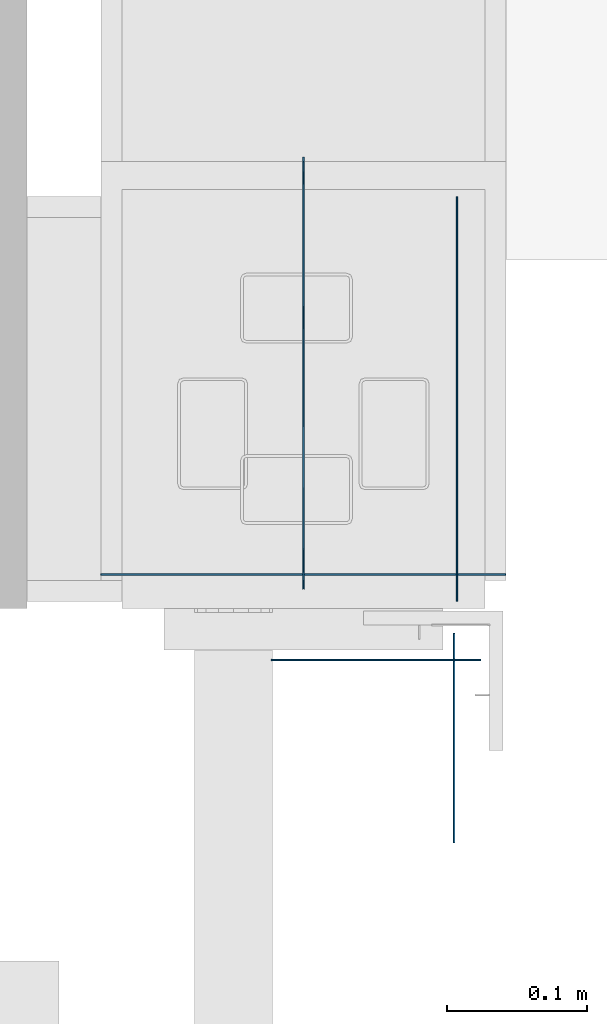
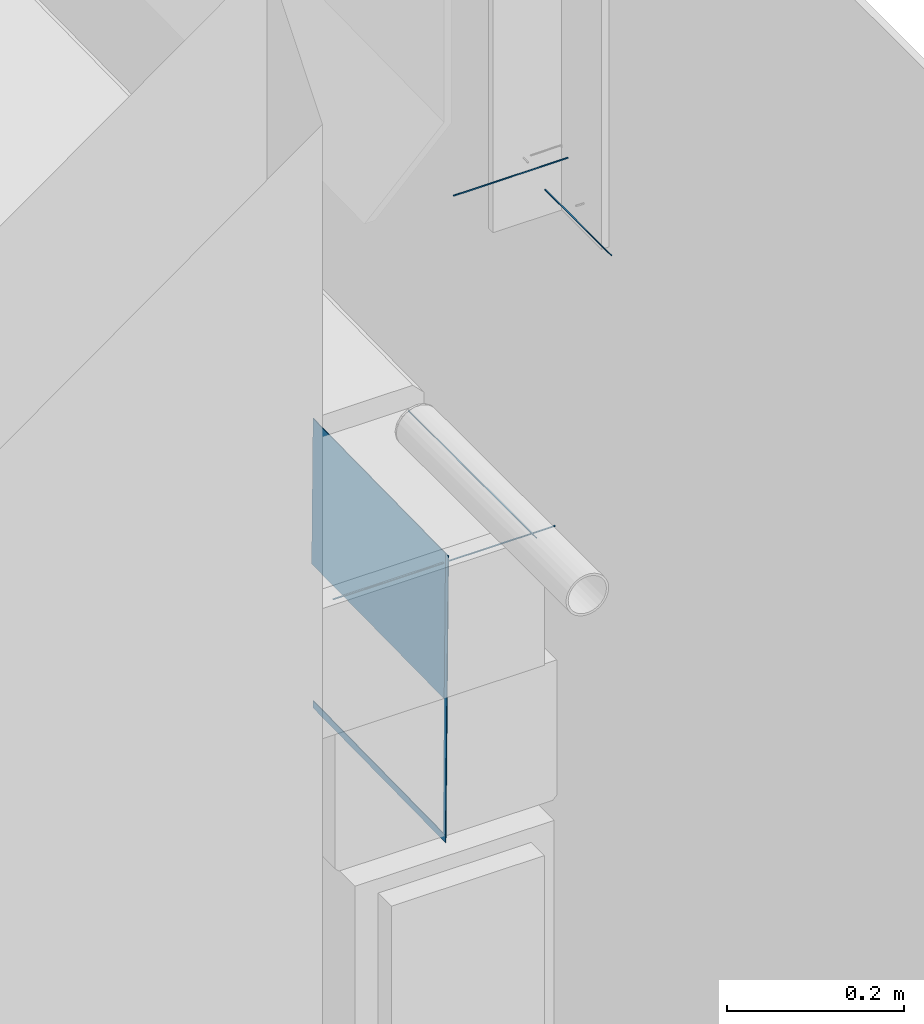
# One storey, part 47 of 186: 7 beams.
"""IFC4X3_ADD2 building model written with IfcOpenShell, lengths in millimetres."""

from ifc_helpers import new_model, si_unit, direction, frame, frame_2d, origin_with_axes, place, context, subcontext, project, spatial, rectangle, extrude, material, element, save


model = new_model("IFC4X3_ADD2")

# Units and contexts
model_context = context("Model", 3, precision=1e-05, world=origin_with_axes(), true_north=direction((0.0, 1.0)))
body_context = subcontext(model_context, "Body", "Model", "MODEL_VIEW")
ifc_project = project(units=[si_unit("LENGTHUNIT", "METRE", prefix="MILLI"), si_unit("AREAUNIT", "SQUARE_METRE"), si_unit("VOLUMEUNIT", "CUBIC_METRE"), si_unit("PLANEANGLEUNIT", "RADIAN"), si_unit("TIMEUNIT", "SECOND"), si_unit("MASSUNIT", "GRAM")], contexts=[model_context])

# Site, building, storey
site_placement = place(None, origin_with_axes())
site = spatial("IfcSite", under=ifc_project, at=site_placement, Name="Site", CompositionType="ELEMENT")
building_placement = place(site_placement, origin_with_axes())
building = spatial("IfcBuilding", under=site, at=building_placement, Name="IFC Building Story")
storey_placement = place(building_placement, frame((0.0, 0.0, 4370.0), z_axis=(0.0, 0.0, 1.0), x_axis=(1.0, 0.0, 0.0)))
storey = spatial("IfcBuildingStorey", under=building, at=storey_placement, Name="ETAGE 10 (1)", Elevation=4370.0)

# Beams
ifc_material_1 = material(Name="STEEL/Accessory_invisible")
beam_1_placement = place(storey_placement, frame((48468.6886362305, 17906.9996109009, 3710.5), z_axis=(1.0, 0.0, 0.0), x_axis=(0.0, 0.0, 1.0)))
element("IfcBeam", 1, at=beam_1_placement, inside=storey, material=ifc_material_1, Name="RH14", ObjectType="1*1 6", context=body_context, shape_type="SweptSolid", body=[
    extrude(rectangle(XDim=0.9999999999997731, YDim=150.000000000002, at=frame_2d((0.0, 5.95523630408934e-12), x_axis=(1.0, 0.0))), origin_with_axes(), (0.0, 0.0, 1.0), 1.0),
])
beam_2_placement = place(storey_placement, frame((48470.6896988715, 18149.9493896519, 3214.49958190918), z_axis=(1.0, 0.0, 0.0), x_axis=(0.0, 0.0, -1.0)))
element("IfcBeam", 2, at=beam_2_placement, inside=storey, material=ifc_material_1, Name="ZW3", ObjectType="1*1 11", context=body_context, shape_type="SweptSolid", body=[
    extrude(rectangle(XDim=0.9999999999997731, YDim=289.900000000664, at=frame_2d((0.0, 5.95523630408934e-12), x_axis=(1.0, 0.0))), origin_with_axes(), (0.0, 0.0, 1.0), 1.0),
])
beam_3_placement = place(storey_placement, frame((48506.08869887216, 18024.1742599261, 3207.401575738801), z_axis=(-1.0, 0.0, 0.0), x_axis=(0.0, 1.0, 0.0)))
element("IfcBeam", 3, at=beam_3_placement, inside=storey, material=ifc_material_1, Name="ZW3", ObjectType="1*1 3", context=body_context, shape_type="SweptSolid", body=[
    extrude(rectangle(XDim=0.9999999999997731, YDim=0.9999999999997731, at=frame_2d((0.0, 5.95523630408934e-12), x_axis=(1.0, 0.0))), origin_with_axes(), (0.0, 0.0, 1.0), 289.9000000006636),
])
ifc_material_2 = material(Name="STEEL/Accessory_invisible 261")
beam_4_placement = place(storey_placement, frame((48360.6886988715, 18171.4697003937, 3123.680074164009), z_axis=(1.0, 0.0, 0.0), x_axis=(0.0, 0.01553751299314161, -0.9998792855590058)))
element("IfcBeam", 4, at=beam_4_placement, inside=storey, material=ifc_material_2, Name="BEK4", ObjectType="203*1", context=body_context, shape_type="SweptSolid", body=[
    extrude(rectangle(XDim=202.999999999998, YDim=300.25009108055, at=frame_2d((0.0, 5.95523630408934e-12), x_axis=(1.0, 0.0))), origin_with_axes(), (0.0, 0.0, 1.0), 1.0),
])
beam_5_placement = place(storey_placement, frame((48360.6886988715, 18169.9218785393, 2830.120587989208), z_axis=(1.0, 0.0, 0.0), x_axis=(0.0, 0.01553751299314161, -0.9998792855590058)))
element("IfcBeam", 5, at=beam_5_placement, inside=storey, material=ifc_material_2, Name="BEK4", ObjectType="10*1", context=body_context, shape_type="SweptSolid", body=[
    extrude(rectangle(XDim=9.999999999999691, YDim=300.036218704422, at=frame_2d((0.0, 5.95523630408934e-12), x_axis=(1.0, 0.0))), origin_with_axes(), (0.0, 0.0, 1.0), 1.0),
])
beam_6_placement = place(storey_placement, frame((48361.6886988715, 18019.8149790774, 3027.81215019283), z_axis=(-1.0, 0.0, 0.0), x_axis=(0.0, -0.01553280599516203, 0.9998793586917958)))
element("IfcBeam", 6, at=beam_6_placement, inside=storey, material=ifc_material_2, Name="BEK4", ObjectType="6*1 4", context=body_context, shape_type="SweptSolid", body=[
    extrude(rectangle(XDim=390.000000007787, YDim=5.99999999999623, at=frame_2d((0.0, 5.95523630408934e-12), x_axis=(1.0, 0.0))), origin_with_axes(), (0.0, 0.0, 1.0), 1.0),
])
beam_7_placement = place(storey_placement, frame((48488.1886362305, 17962.9996109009, 3759.5), z_axis=(-1.0, 0.0, 0.0), x_axis=(0.0, -1.0, 0.0)))
element("IfcBeam", 7, at=beam_7_placement, inside=storey, material=ifc_material_1, Name="RH14", ObjectType="1*1 3", context=body_context, shape_type="SweptSolid", body=[
    extrude(rectangle(XDim=0.9999999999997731, YDim=0.9999999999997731, at=frame_2d((0.0, 5.95523630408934e-12), x_axis=(1.0, 0.0))), origin_with_axes(), (0.0, 0.0, 1.0), 150.0000000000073),
])

save(model, "model.ifc")
